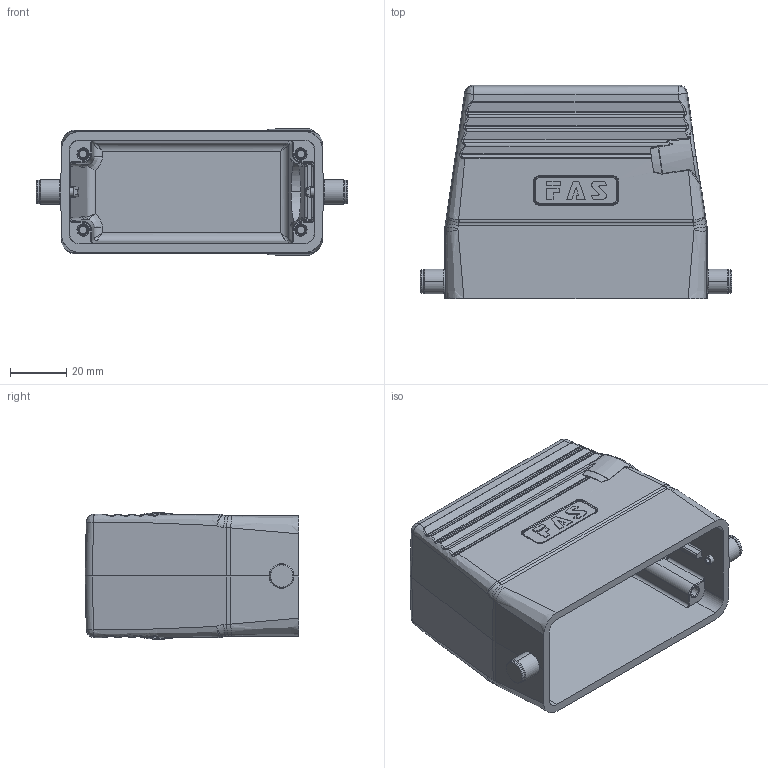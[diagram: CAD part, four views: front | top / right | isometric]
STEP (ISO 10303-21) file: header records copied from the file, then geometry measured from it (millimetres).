
FILE_DESCRIPTION (( 'STEP AP203' ), '1' );
FILE_NAME ('H16B-TSH-RO-M25&32&40.STEP', '2020-11-21T05:40:56', ( '' ), ( '' ), 'SwSTEP 2.0', 'SolidWorks 2016', '' );
FILE_SCHEMA (( 'CONFIG_CONTROL_DESIGN' ));
Length unit declared in the file: millimetre
Products named in the file (6): PRT0001_1; H16B-TSH-RO-M25&32&40; PRT0004; PRT0001; 16B_HIGH_HOODS; PRT0004_1
Assembly tree (5 placements, depth 2):
  H16B-TSH-RO-M25&32&40
    16B_HIGH_HOODS
    PRT0001
    PRT0001_1
    PRT0004
    PRT0004_1
Bounding box: 110.8 x 76 x 45 mm (x, y, z)
Volume: 91727.8 mm3; surface area: 43464.4 mm2
Topology: 5 solids, 5 shells, 563 faces, 1346 edges, 816 vertices
Faces by surface type: cylinder 180, bspline 178, plane 147, cone 58
Entity records: 27052 total; most frequent: CARTESIAN_POINT 15182, ORIENTED_EDGE 2692, DIRECTION 1851, EDGE_CURVE 1346, VERTEX_POINT 816, AXIS2_PLACEMENT_3D 677, EDGE_LOOP 592, ADVANCED_FACE 563
